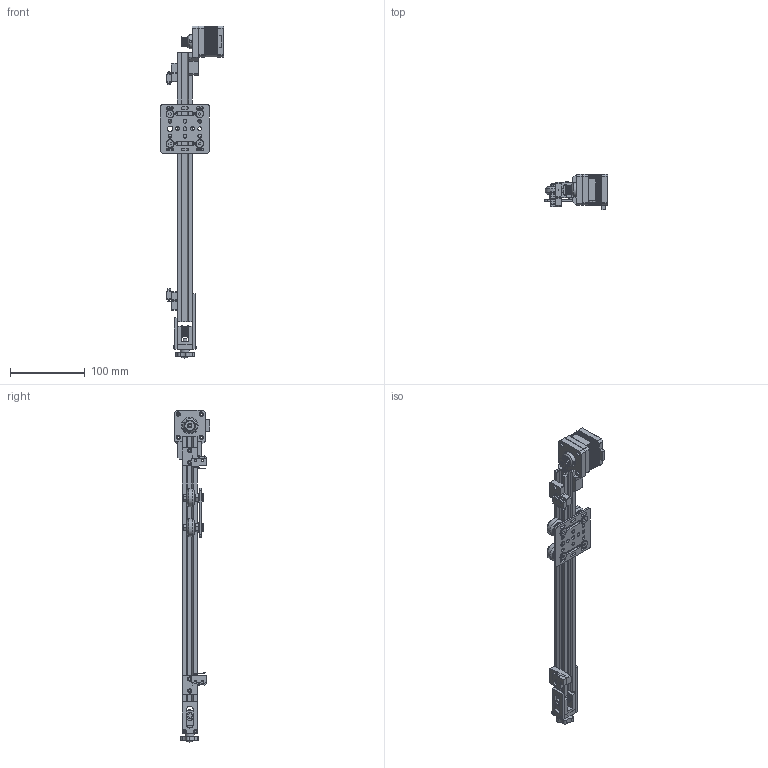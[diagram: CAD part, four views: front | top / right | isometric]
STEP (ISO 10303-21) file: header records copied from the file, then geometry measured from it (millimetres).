
FILE_DESCRIPTION(/* description */ (''),/* implementation_level */ '2;1');
FILE_NAME(/* name */ 'Assieme_guida_2020_nema.stp',/* time_stamp */ '2026-01-13T19:20:14+01:00',/* author */ ('R5800u'),/* organization */ (''),/* preprocessor_version */ 'ST-DEVELOPER v20',/* originating_system */ 'Autodesk Inventor 2025',/* authorisation */ '');
FILE_SCHEMA (('AUTOMOTIVE_DESIGN { 1 0 10303 214 3 1 1 }'));
Length unit declared in the file: millimetre
Products named in the file (19): Assieme_guida_2020_nema; 2020; 2020 Belt Tensioner G_K; 2020 Tensioner Pulley Cradle; 2020 Tensioner Rear; 2020 Tensioner Short side; 2020 Tensioner Long side; 2020 Tensioner Adjusting Screw; M5 Cap head Screw; GT2_Idler_20T_6mm.step; GT2_Idler_20T.step; M3x10mm bolt; GT2_20T; NO-NC Limit Switch; piatto; blocco_sensore; blocco_sensore_MIR; NEMA 42SHDC3030Z; blocco_nema
Assembly tree (22 placements, depth 4):
  Assieme_guida_2020_nema
    2020
    2020 Belt Tensioner G_K
      2020 Tensioner Pulley Cradle
      2020 Tensioner Rear
      2020 Tensioner Short side
      2020 Tensioner Long side
      2020 Tensioner Adjusting Screw
      M5 Cap head Screw
      GT2_Idler_20T_6mm.step
        GT2_Idler_20T.step
      M3x10mm bolt  x4
    GT2_20T
    NO-NC Limit Switch  x2
    piatto
    blocco_sensore
    blocco_sensore_MIR
    NEMA 42SHDC3030Z
    blocco_nema
Bounding box: 84.45 x 48 x 444.75 mm (x, y, z)
Volume: 197194.6 mm3; surface area: 131863 mm2
Topology: 60 solids, 60 shells, 1786 faces, 4371 edges, 2780 vertices
Faces by surface type: plane 1214, cylinder 495, cone 27, sphere 22, torus 18, bspline 10
Full cylindrical faces by diameter (mm): 1.8 x6, 2.2 x4, 2.5 x4, 3 x12, 3.2 x10, 4.2 x2, 4.25 x2, 4.3 x2, 5 x39, 5.1 x2, 5.4 x1, 5.5 x4, 5.7 x4, 5.8 x4, 7 x18, 7.12 x2, 7.2 x3, 7.6 x2, 7.8 x1, 9 x2, 10 x6, 11 x4, 12 x1, 12.5 x2, 13 x1, 14 x16, 15 x2, 15.974 x4, 16 x8, 19 x1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
Entity records: 52656 total; most frequent: CARTESIAN_POINT 10207, DIRECTION 8425, ORIENTED_EDGE 8232, EDGE_CURVE 4116, LINE 2913, VECTOR 2913, AXIS2_PLACEMENT_3D 2756, VERTEX_POINT 2623
